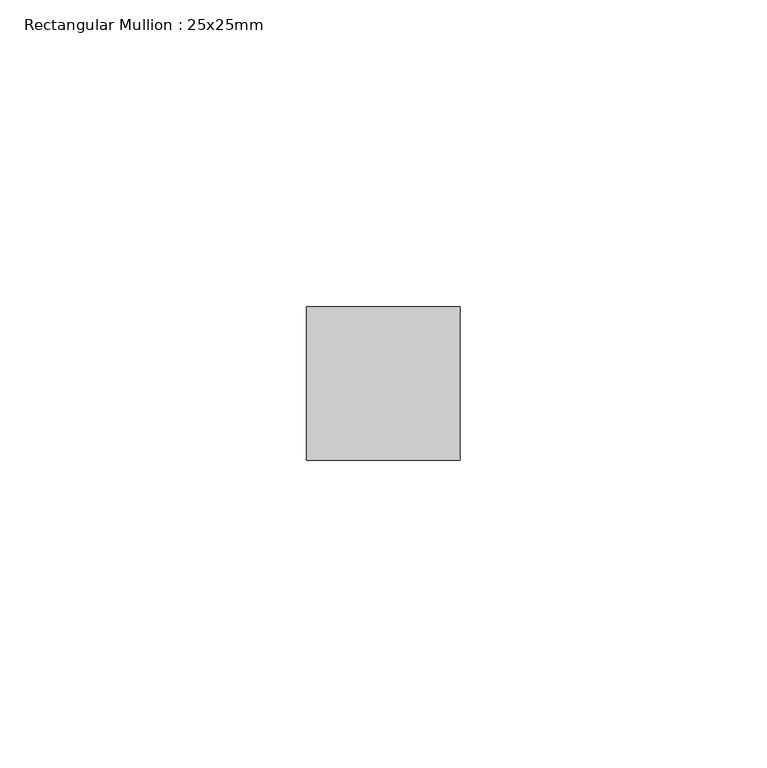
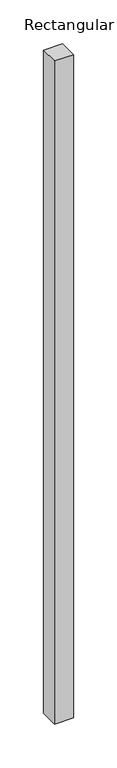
"""IFC4 building model written with IfcOpenShell, lengths in millimetres: member geometry, Rectangular Mullion : 25x25mm."""

from ifc_helpers import new_model, si_unit, frame, origin, place, context, project, spatial, polyline, outline, extrude, source, transform, mapped, element, save


def rectangular_mullion_25x25mm_ef735152(model_context):
    return source(origin(), model_context, "Body", "SweptSolid", [
        extrude(outline(polyline([(12.5, 24.5), (12.5, -0.5), (-12.5, -0.5), (-12.5, 24.5), (12.5, 24.5)])), frame((0.0, 0.0, -925.0), z_axis=(0.0, 0.0, 1.0), x_axis=(1.0, 0.0, 0.0)), (0.0, 0.0, 1.0), 925.0),
    ])


if __name__ == "__main__":
    model = new_model("IFC4")
    model_context = context("Model", 3, world=origin())
    ifc_project = project(units=[si_unit("LENGTHUNIT", "METRE", prefix="MILLI")], contexts=[model_context])
    site = spatial("IfcSite", under=ifc_project)
    building = spatial("IfcBuilding", under=site)
    placement = place(None, origin())
    rectangular_mullion_25x25mm_shape = rectangular_mullion_25x25mm_ef735152(model_context)
    element("IfcMember", 1, ObjectType="Rectangular Mullion : 25x25mm", at=placement, inside=building, context=model_context, shape_type="MappedRepresentation", body=[
        mapped(rectangular_mullion_25x25mm_shape, transform((0.0, 0.0, 0.0), x_axis=(1.0, 0.0, 0.0), y_axis=(0.0, 1.0, 0.0), z_axis=(0.0, 0.0, 1.0))),
    ])
    save(model, "model.ifc")
